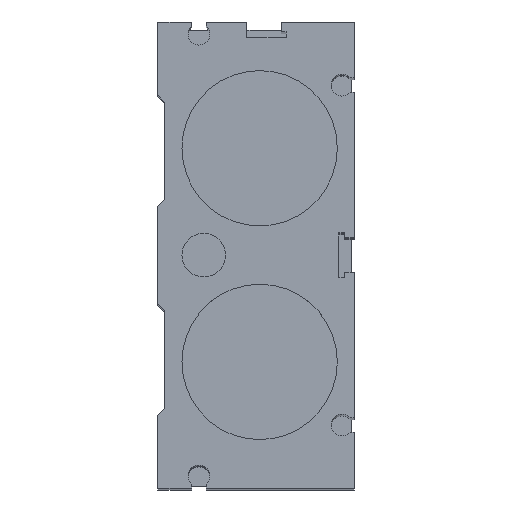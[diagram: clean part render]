
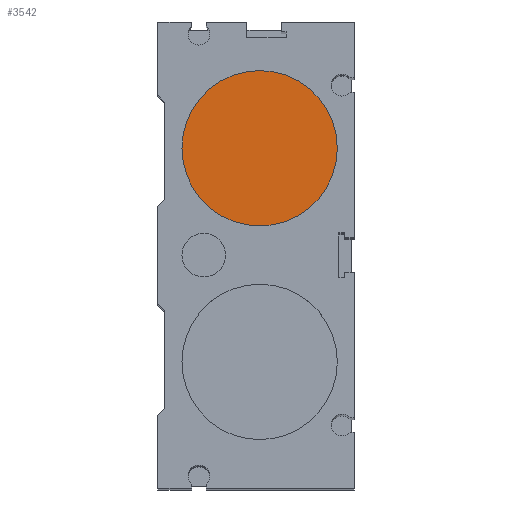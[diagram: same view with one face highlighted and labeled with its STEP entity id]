
A CAD part, top view. The second image highlights one B-rep face of the part: STEP entity #3542.
In plain terms, the highlighted planar face has unit normal (0, 0, 1).
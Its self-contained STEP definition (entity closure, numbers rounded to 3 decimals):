
#3511=CARTESIAN_POINT('',(16.0,22.0,388.0));
#3512=VERTEX_POINT('',#3511);
#3513=CARTESIAN_POINT('',(0.,22.0,388.0));
#3514=DIRECTION('',(0.0,0.0,1.0));
#3515=DIRECTION('',(-1.0,0.0,0.0));
#3516=AXIS2_PLACEMENT_3D('',#3513,#3514,#3515);
#3517=CIRCLE('',#3516,16.0);
#3518=EDGE_CURVE('',#3512,#3512,#3517,.T.);
#3534=CARTESIAN_POINT('',(0.,22.0,388.0));
#3535=DIRECTION('',(0.0,0.0,-1.0));
#3536=DIRECTION('',(-1.0,0.0,0.0));
#3537=AXIS2_PLACEMENT_3D('',#3534,#3535,#3536);
#3538=PLANE('',#3537);
#3539=ORIENTED_EDGE('',*,*,#3518,.T.);
#3540=EDGE_LOOP('',(#3539));
#3541=FACE_OUTER_BOUND('',#3540,.T.);
#3542=ADVANCED_FACE('',(#3541),#3538,.F.);
